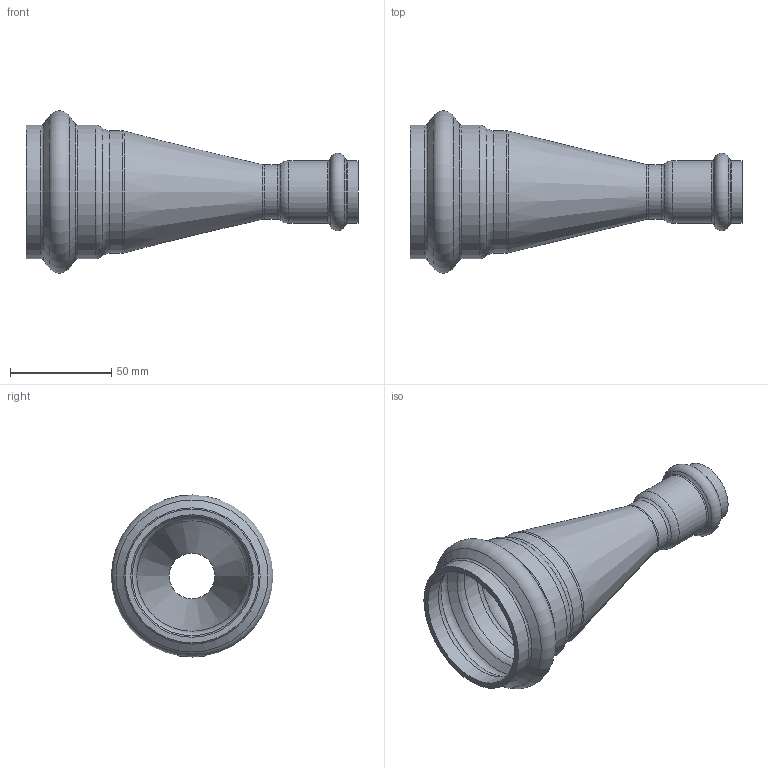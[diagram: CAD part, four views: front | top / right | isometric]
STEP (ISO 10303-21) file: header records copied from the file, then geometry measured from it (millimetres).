
FILE_DESCRIPTION(/* description */ ('VIC REDUCER CONC. STYLE P594 (P X P)','CAx-IF Rec.Pracs.---Representation and Presentation of Product Manufacturing Information (PMI)---4.0---2014-10-13'),/* implementation_level */ '2;1');
FILE_NAME(/* name */ 'C:\Users\Vjadhav\AppData\Roaming\Autodesk\ApplicationPlugins\Back Up\Victaulic_SS-Vic-Press-TP 304_Reducer Concentric_Style P594 (VP)\Victaulic_SS-Vic-Press-TP 304_Reducer Concentric_Style P594 (VP)_02.0x0.75 (50x20).stp',/* time_stamp */ '2020-08-12T18:15:00+06:00',/* author */ ('cgray'),/* organization */ ('Victaulic'),/* preprocessor_version */ 'ST-DEVELOPER v17.2',/* originating_system */ 'Autodesk Inventor 2019',/* authorisation */ '');
FILE_SCHEMA (('AP242_MANAGED_MODEL_BASED_3D_ENGINEERING_MIM_LF { 1 0 10303 442 1 1 4 }'));
Length unit declared in the file: inch
Products named in the file (1): P594-02.0x0.75
Bounding box: 163.58 x 79.89 x 79.89 mm (x, y, z)
Volume: 62776.7 mm3; surface area: 50596.7 mm2
Topology: 1 solids, 1 shells, 48 faces, 182 edges, 136 vertices
Faces by surface type: torus 24, cylinder 12, cone 10, plane 2
Full cylindrical faces by diameter (mm): 22.454 x1, 26.67 x3, 30.886 x2, 54.788 x1, 60.325 x3, 65.862 x2
Entity records: 2282 total; most frequent: DIRECTION 466, CARTESIAN_POINT 384, ORIENTED_EDGE 364, AXIS2_PLACEMENT_3D 222, EDGE_CURVE 182, CIRCLE 160, VERTEX_POINT 136, EDGE_LOOP 50
